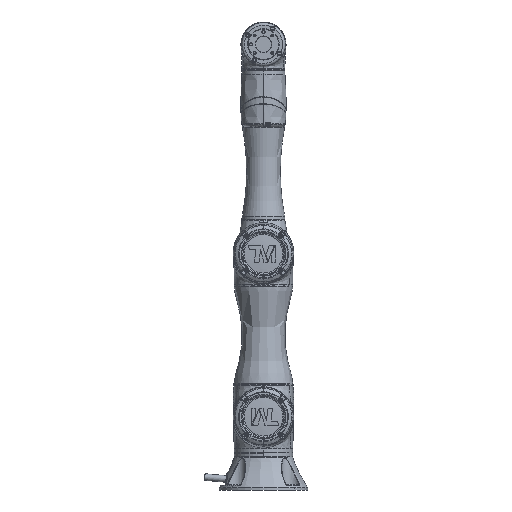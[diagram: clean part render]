
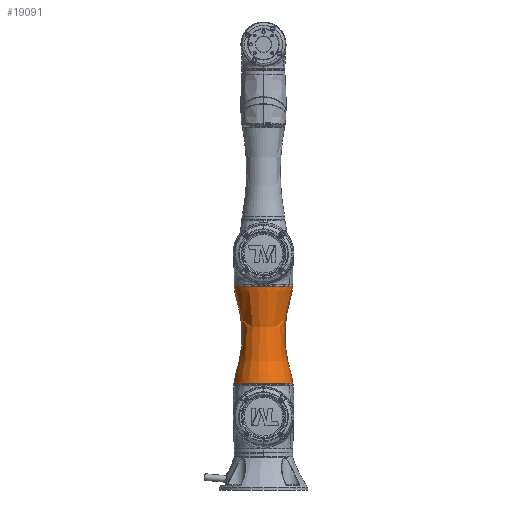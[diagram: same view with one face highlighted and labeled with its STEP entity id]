
A CAD part, left-side view. The second image highlights one B-rep face of the part: STEP entity #19091.
In plain terms, the highlighted face is a revolution surface.
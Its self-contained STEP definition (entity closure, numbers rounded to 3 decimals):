
#18812=CARTESIAN_POINT('',(-58.484,97.5,0.));
#18813=CARTESIAN_POINT('',(-58.484,91.362,
0.));
#18814=CARTESIAN_POINT('',(-55.904,78.827,
-0.001));
#18815=CARTESIAN_POINT('',(-49.385,56.151,
-0.001));
#18816=CARTESIAN_POINT('',(-43.994,29.343,
-0.001));
#18817=CARTESIAN_POINT('',(-41.948,0.,-0.001));
#18818=CARTESIAN_POINT('',(-43.994,-29.343,
-0.001));
#18819=CARTESIAN_POINT('',(-49.385,-56.151,
-0.001));
#18820=CARTESIAN_POINT('',(-55.904,-78.827,
-0.001));
#18821=CARTESIAN_POINT('',(-58.484,-91.362,
-0.002));
#18822=CARTESIAN_POINT('',(-58.484,-97.5,-0.002));
#18824=CARTESIAN_POINT('',(-58.484,97.5,0.));
#18830=CARTESIAN_POINT('',(58.484,97.5,-0.002));
#18832=CARTESIAN_POINT('',(0.,97.5,0.));
#18833=DIRECTION('',(0.,-1.,0.));
#18834=DIRECTION('',(1.,0.,0.));
#18835=AXIS2_PLACEMENT_3D('',#18832,#18833,#18834);
#18847=CARTESIAN_POINT('',(58.484,97.5,-0.002));
#18848=CARTESIAN_POINT('',(58.484,91.362,
-0.002));
#18849=CARTESIAN_POINT('',(55.866,78.827,
-0.001));
#18850=CARTESIAN_POINT('',(49.366,56.151,
-0.001));
#18851=CARTESIAN_POINT('',(43.974,29.343,
-0.001));
#18852=CARTESIAN_POINT('',(41.929,0.,-0.001));
#18853=CARTESIAN_POINT('',(43.974,-29.343,
-0.001));
#18854=CARTESIAN_POINT('',(49.366,-56.151,
-0.001));
#18855=CARTESIAN_POINT('',(55.866,-78.827,
-0.002));
#18856=CARTESIAN_POINT('',(58.484,-91.362,
0.));
#18857=CARTESIAN_POINT('',(58.484,-97.5,0.));
#18859=CARTESIAN_POINT('',(0.,-97.5,0.));
#18860=DIRECTION('',(0.,1.,0.));
#18861=DIRECTION('',(-1.,0.,0.));
#18862=AXIS2_PLACEMENT_3D('',#18859,#18860,#18861);
#18864=CARTESIAN_POINT('',(58.484,-97.5,0.));
#18918=VERTEX_POINT('',#18824);
#18919=VERTEX_POINT('',#18830);
#18920=VERTEX_POINT('',#18822);
#18921=VERTEX_POINT('',#18864);
#19066=CARTESIAN_POINT('',(-58.427,99.483,
0.));
#19067=CARTESIAN_POINT('',(-58.458,98.823,
0.));
#19068=CARTESIAN_POINT('',(-58.614,92.039,
0.));
#19069=CARTESIAN_POINT('',(-55.871,78.827,
0.));
#19070=CARTESIAN_POINT('',(-49.365,56.151,
0.));
#19071=CARTESIAN_POINT('',(-43.974,29.343,0.));
#19072=CARTESIAN_POINT('',(-41.929,0.,0.));
#19073=CARTESIAN_POINT('',(-43.974,-29.343,0.));
#19074=CARTESIAN_POINT('',(-49.365,-56.151,
0.));
#19075=CARTESIAN_POINT('',(-55.871,-78.827,
0.));
#19076=CARTESIAN_POINT('',(-58.613,-92.036,
0.));
#19077=CARTESIAN_POINT('',(-58.459,-98.817,
0.));
#19078=CARTESIAN_POINT('',(-58.427,-99.474,
0.));
#19080=CARTESIAN_POINT('',(0.,0.,0.));
#19081=DIRECTION('',(0.,-1.,0.));
#19082=AXIS1_PLACEMENT('',#19080,#19081);
#19083=SURFACE_OF_REVOLUTION('',#19079,#19082);
#19084=ORIENTED_EDGE('',*,*,#19055,.F.);
#19085=ORIENTED_EDGE('',*,*,#19044,.T.);
#19087=ORIENTED_EDGE('',*,*,#19086,.F.);
#19088=ORIENTED_EDGE('',*,*,#19040,.F.);
#19089=EDGE_LOOP('',(#19084,#19085,#19087,#19088));
#19090=FACE_OUTER_BOUND('',#19089,.F.);
#19091=ADVANCED_FACE('',(#19090),#19083,.T.);
#18823=B_SPLINE_CURVE_WITH_KNOTS('',3,(#18812,#18813,#18814,#18815,#18816,
#18817,#18818,#18819,#18820,#18821,#18822),.UNSPECIFIED.,.F.,.F.,(4,1,1,1,1,1,1,
1,4),(0.,0.125,0.25,0.375,0.5,0.625,0.75,0.875,1.),
.UNSPECIFIED.);
#18836=CIRCLE('',#18835,58.474);
#18858=B_SPLINE_CURVE_WITH_KNOTS('',3,(#18847,#18848,#18849,#18850,#18851,
#18852,#18853,#18854,#18855,#18856,#18857),.UNSPECIFIED.,.F.,.F.,(4,1,1,1,1,1,1,
1,4),(0.,0.125,0.25,0.375,0.5,0.625,0.75,
0.875,1.),.UNSPECIFIED.);
#18863=CIRCLE('',#18862,58.474);
#19040=EDGE_CURVE('',#18918,#18920,#18823,.T.);
#19044=EDGE_CURVE('',#18919,#18921,#18858,.T.);
#19055=EDGE_CURVE('',#18919,#18918,#18836,.T.);
#19079=B_SPLINE_CURVE_WITH_KNOTS('',3,(#19066,#19067,#19068,#19069,#19070,
#19071,#19072,#19073,#19074,#19075,#19076,#19077,#19078),.UNSPECIFIED.,.F.,.F.,(
4,1,1,1,1,1,1,1,1,1,4),(0.,0.013,0.135,
0.257,0.378,0.5,0.622,
0.743,0.865,0.987,1.),.UNSPECIFIED.);
#19086=EDGE_CURVE('',#18920,#18921,#18863,.T.);
